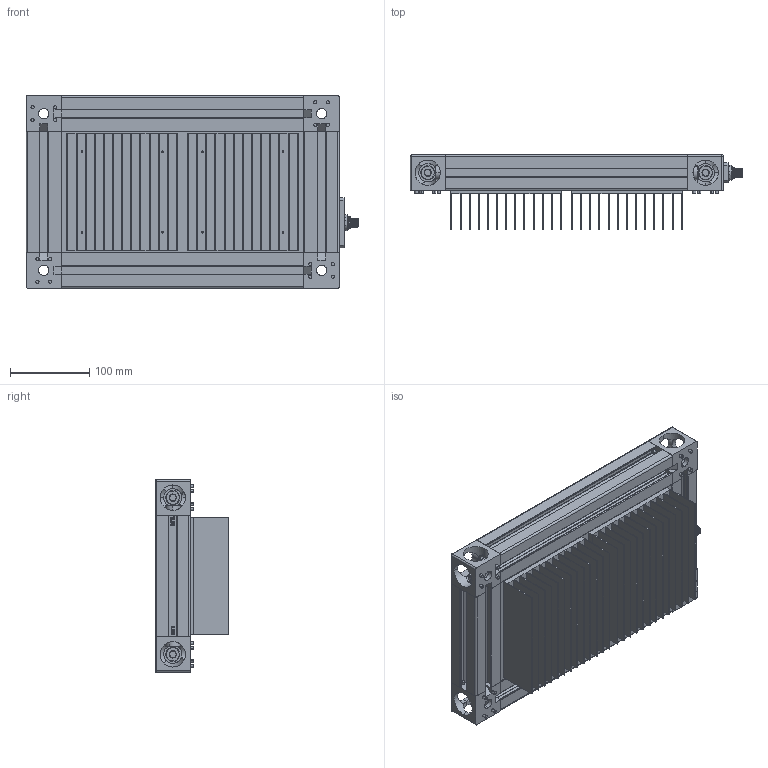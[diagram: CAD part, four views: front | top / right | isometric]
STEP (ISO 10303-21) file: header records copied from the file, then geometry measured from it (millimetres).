
FILE_DESCRIPTION (( 'STEP AP214' ), '1' );
FILE_NAME ('AL-300x150.STEP', '2016-07-26T17:21:13', ( '' ), ( '' ), 'SwSTEP 2.0', 'SolidWorks 2015', '' );
FILE_SCHEMA (( 'AUTOMOTIVE_DESIGN' ));
Length unit declared in the file: millimetre
Products named in the file (14): HOBL; Input Assembly; M12 Nut; Screw holder; Screws -- short_FB08.0-015; Input Mounting Plate_A; M12_Male; BC-M_306x153; EXT45_300; EXT45_150; Bosch Gusset - 3 842 523 874; 93070A241_93070A241; AL-300x150; BP-M_BP-M-306x153
Assembly tree (28 placements, depth 3):
  AL-300x150
    93070A241_93070A241  x8
    Bosch Gusset - 3 842 523 874  x4
    EXT45_150  x2
    EXT45_300  x2
    BC-M_306x153
    Input Assembly
      M12_Male
      Input Mounting Plate_A
      Screws -- short_FB08.0-015  x2
      Screw holder  x2
      M12 Nut
    HOBL  x2
    BP-M_BP-M-306x153
Bounding box: 419.47 x 93.47 x 243 mm (x, y, z)
Volume: 1606083.9 mm3; surface area: 1235396.7 mm2
Topology: 27 solids, 28 shells, 2096 faces, 5666 edges, 3700 vertices
Faces by surface type: cylinder 1092, plane 754, cone 156, bspline 86, sphere 4, torus 4
Entity records: 54248 total; most frequent: CARTESIAN_POINT 27991, ORIENTED_EDGE 5132, DIRECTION 4689, EDGE_CURVE 2566, VERTEX_POINT 1689, AXIS2_PLACEMENT_3D 1654, VECTOR 1381, LINE 1381
